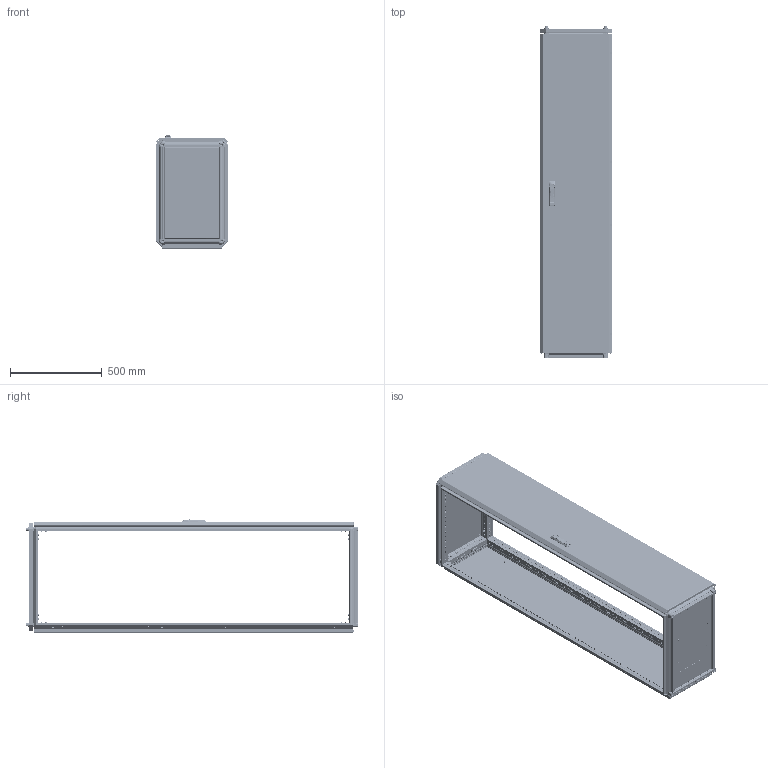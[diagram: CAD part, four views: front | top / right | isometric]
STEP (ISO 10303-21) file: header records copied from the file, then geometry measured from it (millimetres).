
FILE_DESCRIPTION (( 'STEP AP203' ), '1' );
FILE_NAME ('MA1.000.040618.10.00 AleSta1846 Øêàô AleSta 400õ600õ1800.STEP', '2024-08-23T07:28:49', ( '' ), ( '' ), 'SwSTEP 2.0', 'SolidWorks 2021', '' );
FILE_SCHEMA (( 'CONFIG_CONTROL_DESIGN' ));
Length unit declared in the file: millimetre
Products named in the file (50): Âèíò_ðåçüáîâûäàâëèâàþùèé_Ì5õ12_DIN 7500E_Œ5å12; MA1.102.060620.00.01 Ïðîôèëü âåðòèêàëüíûé ñâàðíîé_03 L=1698 (‚=1800); êðåïëåíèå_êðóãëîé_òÿãè_RG1020-1.stp; Âèíò ñàìîíàðåçàþùèé ñ ïîòàéíîé ãîëîâêîé Ì5x14 DIN 7500 M TORX, êëàññ ïðî÷íîñòè 8.8, îöèíêîâàííàÿ ñòàëü_Œ5å12; 7380-2 ISO Âèíòû ñ ïîëóêðóãëîé ãîëîâêîé ñ ôëàíöåì ñ âíóòðåííèì øåñòèãðàííèêîì Ì4õ10; MA1.101.060620.10.00 ﾊ 600x600_400x600; MA1.000.040618.10.00 AleSta1846 Øêàô AleSta 400õ600õ1800; Âèíò ñàìîíàðåçàþùèé ñ ïîòàéíîé ãîëîâêîé Ì5x14 DIN 7500 M TORX, êëàññ ïðî÷íîñòè 8.8, îöèíêîâàííàÿ ñòàëü_Œ5å14; ﾇﾀﾊﾋﾅﾏﾊﾀ ﾃﾀﾅﾗﾍﾀﾟ ﾘﾅﾑﾒﾈﾃﾐﾀﾍﾍﾀﾟ ﾑ ﾓﾌﾅﾍﾜﾘﾅﾍﾍﾛﾌ ﾁﾎﾐﾒﾎﾌ M4 X 11 (0.5-2.5 ﾌﾌ) HEX U-S ﾖﾈﾍﾊ; MA1.200.060620.30.00 AleSta-D20M600 Äâåðü ñïëîøíàÿ äëÿ øêàôîâ ALESTA ÂõØ 2000õ600_1800å400; Øïèëüêà Ì6õ12_˜¯¨«ìª  Œ6å12; MA1.200.060620.11.01 Ïîëîòíî çàäíåé ïàíåëè 2000õ600_1800å400; Øïèëüêà Ì6õ12_˜¯¨«ìª  Œ6å20; MA1.101.060620.00.02 Ïðîôèëü ïîïåðå÷íûé ñâàðíîé_01 L=498 (˜=600); Øïèëüêà Ì6õ12_˜¯¨«ìª  Œ6å16; MA1.200.060620.31.01 Ïîëîòíî äâåðè ñïëîøíîé 2000õ600_1800å400; MS463-2-3(1); MA1.200.060620.31.04 ðèãåëü çàìêà äâåðè; ﾘ琺矜 65ﾃ 019 ﾃﾎﾑﾒ 6402-70_12; Ïðîáêà ïëàñòèêîâàÿ óíèâåðñàëüíàÿ ïîä îòâåðñòèå 4,5 ìì, ñåðèÿ ST, öâåò áåñöâåòíûé – ST4,5; äåðæàòåëü_êðóãëîé_òÿãèRG002-RG1010-2-i-RG1010-3-.stp; ﾘ琺矜 01.019 ﾃﾎﾑﾒ11371-78_12; Âèíò ñ âí. øåñòèãðàííèêîì M12 DIN912_•30; MA1.101.060620.10.01 Ïîëîòíî êðûøè 600õ600_400å600; Îñü ïåòëè 4õ52_‚¨­â A.M4x0,5x40 ƒŽ‘’ 11644-75; MA1.101.060620.20.01 Ïîëîòíî íèæíåé ïàíåëè 600õ600_400å600; MA1.100.060620.00.01 Ñîåäèíèòåëü óãëîâîé_00; Áîëò øåñòèãðàííûé Ì5õ12 DIN 933, êëàññ ïðî÷íîñòè 8.8, îöèíêîâàííàÿ ñòàëü; Øàéáà ñòîïîðíàÿ ñ íàðóæíûìè çóáöàìè SCHNORR, òèï VS öèíêîâûå õëîïüÿ Ì6 O6,4 ART 88121_Œ6; MA1.200.060620.31.03 Ðåéêà íà äâåðü ãîðèçîíòàëüíàÿ Ø = 600_˜=400; MA1.101.060620.20.00 Íèæíÿÿ ïàíåëü 600õ600_400å600; MA1.200.060620.31.05 Óãëîâîé óïîð äâåðíîé òÿãè; Óïëîòíèòåëü ïàíåëè íèæíåé_400x600; MA1.101.060620.00.00 AleSta-RB66 Êîìïëåêò êðûøà è îñíîâàíèå_  400å600; MA1.102.060620.00.00 AleSta-VG2000 Ñòîéêè âåðòèêàëüíûå, Â=2000ìì  (4øò)_  400å600; MA1.200.060620.31.00 Äâåðü ñïëîøíàÿ äëÿ øêàôîâ ALESTA ÂõØ 2000õ600_1800å400; Ãàéêà ñàìîêîíòðÿùàÿñÿ ñ íåéëîíîâîé âñòàâêîé Ì6 DIN 985, êëàññ ïðî÷íîñòè 8, îöèíêîâàííàÿ ñòàëü_Œ5; Íàâåñêà íà êîðïóñ ïîä êëåïêó; MA1.101.060620.00.02 Ïðîôèëü ïîïåðå÷íûé ñâàðíîé_00 L=298 (˜=400); Âèíò_ðåçüáîâûäàâëèâàþùèé_Ì5õ12_DIN 7500E_00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
Assembly tree (337 placements, depth 4):
  MA1.000.040618.10.00 AleSta1846 Øêàô AleSta 400õ600õ1800
    MA1.101.060620.00.00 AleSta-RB66 Êîìïëåêò êðûøà è îñíîâàíèå_  400å600
      MA1.101.060620.00.02 Ïðîôèëü ïîïåðå÷íûé ñâàðíîé_01 L=498 (˜=600)  x4
      MA1.101.060620.00.02 Ïðîôèëü ïîïåðå÷íûé ñâàðíîé_00 L=298 (˜=400)  x4
      MA1.101.060620.10.00 ﾊ 600x600_400x600
        MA1.101.060620.10.01 Ïîëîòíî êðûøè 600õ600_400å600
        Øïèëüêà Ì6õ12_˜¯¨«ìª  Œ6å12  x4
        Óïëîòíèòåëü ïàíåëè íèæíåé_400x600
      MA1.101.060620.20.00 Íèæíÿÿ ïàíåëü 600õ600_400å600
        MA1.101.060620.20.01 Ïîëîòíî íèæíåé ïàíåëè 600õ600_400å600
        ﾇﾀﾊﾋﾅﾏﾊﾀ ﾃﾀﾅﾗﾍﾀﾟ ﾘﾅﾑﾒﾈﾃﾐﾀﾍﾍﾀﾟ ﾑ ﾓﾌﾅﾍﾜﾘﾅﾍﾍﾛﾌ ﾁﾎﾐﾒﾎﾌ M4 X 11 (0.5-2.5 ﾌﾌ) HEX U-S ﾖﾈﾍﾊ  x4
        MA1.101.060620.20.02 Çàêðûòèå íèæíåé ïàíåëè 600õ600_400å600  x2
        7380-2 ISO Âèíòû ñ ïîëóêðóãëîé ãîëîâêîé ñ ôëàíöåì ñ âíóòðåííèì øåñòèãðàííèêîì Ì4õ10  x4
      Âèíò_ðåçüáîâûäàâëèâàþùèé_Ì5õ12_DIN 7500E_Œ5å12  x8
      MA1.100.060620.00.01 Ñîåäèíèòåëü óãëîâîé_00  x8
      Âèíò ñ âí. øåñòèãðàííèêîì M12 DIN912_•30  x4
      Âèíò ðåçüáîâûäàâëèâàþùèé Ì6õ12 DIN 7500E_Œ6å10  x96
      ﾘ琺矜 01.019 ﾃﾎﾑﾒ11371-78_12  x4
      ﾘ琺矜 65ﾃ 019 ﾃﾎﾑﾒ 6402-70_12  x4
      Øàéáà ñòîïîðíàÿ ñ íàðóæíûìè çóáöàìè SCHNORR, òèï VS öèíêîâûå õëîïüÿ Ì6 O6,4 ART 88121_Œ6  x80
    MA1.102.060620.00.00 AleSta-VG2000 Ñòîéêè âåðòèêàëüíûå, Â=2000ìì  (4øò)_  400å600
      MA1.102.060620.00.01 Ïðîôèëü âåðòèêàëüíûé ñâàðíîé_03 L=1698 (‚=1800)  x4
    MA1.200.060620.10.00 AleSta-PR206  Ïàíåëü çàäíÿÿ, äëÿ øêàôîâ ALESTA, 2000 x 600_1800å400
      MA1.200.060620.11.00 Ïàíåëü çàäíÿÿ, äëÿ øêàôîâ AleSta, 2000x600_1800å400
        MA1.200.060620.11.01 Ïîëîòíî çàäíåé ïàíåëè 2000õ600_1800å400
        Óïëîòíèòåëü ïàíåëè íèæíåé_  ‚=1800
        Øïèëüêà Ì6õ12_˜¯¨«ìª  Œ6å12  x4
      Âèíò ñàìîíàðåçàþùèé ñ ïîòàéíîé ãîëîâêîé Ì5x14 DIN 7500 M TORX, êëàññ ïðî÷íîñòè 8.8, îöèíêîâàííàÿ ñòàëü_Œ5å14  x8
    MA1.200.060620.30.00 AleSta-D20M600 Äâåðü ñïëîøíàÿ äëÿ øêàôîâ ALESTA ÂõØ 2000õ600_1800å400
      MA1.200.060620.31.00 Äâåðü ñïëîøíàÿ äëÿ øêàôîâ ALESTA ÂõØ 2000õ600_1800å400
        MA1.200.060620.31.01 Ïîëîòíî äâåðè ñïëîøíîé 2000õ600_1800å400
        Óïëîòíèòåëü ïàíåëè íèæíåé_  ‚=1800
        Øïèëüêà Ì6õ12_˜¯¨«ìª  Œ6å20  x16
        Øïèëüêà Ì6õ12_˜¯¨«ìª  Œ6å16  x4
        Ïåòëÿ íà äâåðü ï-îáðàçíàÿ  x4
      MA1.200.060620.31.03 Ðåéêà íà äâåðü ãîðèçîíòàëüíàÿ Ø = 600_˜=400  x2
      諘蜱齁罻 022 瀁錒瀔隮  x4
      MA1.200.060620.31.02 Ðåéêà íà äâåðü âåðòèêàëüíàÿ Â = 2000_‚=1800  x2
      äåðæàòåëü_êðóãëîé_òÿãèRG002-RG1010-2-i-RG1010-3-.stp  x2
      òÿãà_lg001-2.STEP_‚ =1800  x2
      êðåïëåíèå_êðóãëîé_òÿãè_RG1020-1.stp  x2
      MS463-2-3(1)
      Ãàéêà ñàìîêîíòðÿùàÿñÿ ñ íåéëîíîâîé âñòàâêîé Ì6 DIN 985, êëàññ ïðî÷íîñòè 8, îöèíêîâàííàÿ ñòàëü_Œ6  x16
      Ãàéêà ñàìîêîíòðÿùàÿñÿ ñ íåéëîíîâîé âñòàâêîé Ì6 DIN 985, êëàññ ïðî÷íîñòè 8, îöèíêîâàííàÿ ñòàëü_Œ5  x2
      Áîëò øåñòèãðàííûé Ì5õ12 DIN 933, êëàññ ïðî÷íîñòè 8.8, îöèíêîâàííàÿ ñòàëü  x2
      MA1.200.060620.31.04 ðèãåëü çàìêà äâåðè
      MA1.200.060620.31.05 Óãëîâîé óïîð äâåðíîé òÿãè  x2
      Âèíò_ðåçüáîâûäàâëèâàþùèé_Ì5õ12_DIN 7500E_00  x2
      Íàâåñêà íà êîðïóñ ïîä êëåïêó  x4
      Îñü ïåòëè 4õ52_‚¨­â A.M4x0,5x40 ƒŽ‘’ 11644-75  x4
      Âèíò ñàìîíàðåçàþùèé ñ ïîòàéíîé ãîëîâêîé Ì5x14 DIN 7500 M TORX, êëàññ ïðî÷íîñòè 8.8, îöèíêîâàííàÿ ñòàëü_Œ5å12  x8
  Ïðîáêà ïëàñòèêîâàÿ óíèâåðñàëüíàÿ ïîä îòâåðñòèå 4,5 ìì, ñåðèÿ ST, öâåò áåñöâåòíûé – ST4,5
Bounding box: 392 x 1810.9 x 616.8 mm (x, y, z)
Volume: 7103578.9 mm3; surface area: 8503900.8 mm2
Topology: 364 solids, 378 shells, 22987 faces, 58998 edges, 36840 vertices
Faces by surface type: plane 13737, cylinder 6557, bspline 921, cone 845, torus 829, sphere 98
Entity records: 241992 total; most frequent: CARTESIAN_POINT 78697, ORIENTED_EDGE 31154, DIRECTION 30656, EDGE_CURVE 15594, AXIS2_PLACEMENT_3D 10544, VERTEX_POINT 9693, LINE 9568, VECTOR 9568
